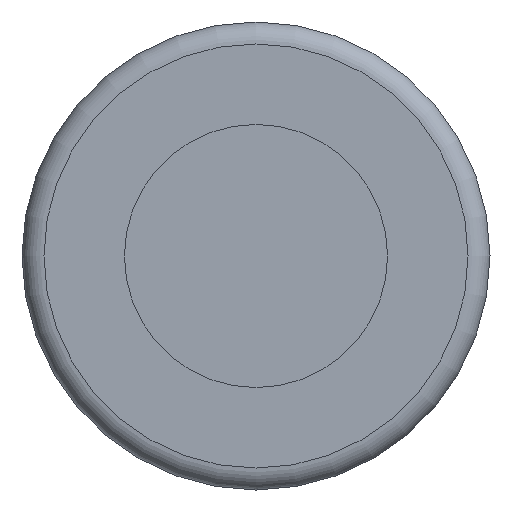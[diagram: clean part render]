
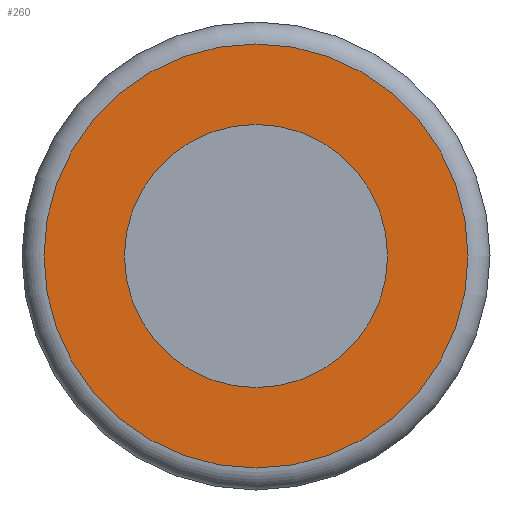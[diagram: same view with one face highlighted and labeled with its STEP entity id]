
A CAD part, left-side view. The second image highlights one B-rep face of the part: STEP entity #260.
In plain terms, the highlighted planar face has unit normal (-1, 0, 0).
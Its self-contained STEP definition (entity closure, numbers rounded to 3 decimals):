
#209=CARTESIAN_POINT('',(130.0,14.5,0.));
#210=VERTEX_POINT('',#209);
#211=CARTESIAN_POINT('',(130.0,0.0,0.0));
#212=DIRECTION('',(1.0,0.0,0.0));
#213=DIRECTION('',(0.0,-1.0,0.0));
#214=AXIS2_PLACEMENT_3D('',#211,#212,#213);
#215=CIRCLE('',#214,14.5);
#216=EDGE_CURVE('',#210,#210,#215,.T.);
#241=CARTESIAN_POINT('',(130.0,0.0,0.0));
#242=DIRECTION('',(-1.0,0.0,0.0));
#243=DIRECTION('',(0.0,0.0,1.0));
#244=AXIS2_PLACEMENT_3D('',#241,#242,#243);
#245=PLANE('',#244);
#246=ORIENTED_EDGE('',*,*,#216,.F.);
#247=EDGE_LOOP('',(#246));
#248=FACE_OUTER_BOUND('',#247,.T.);
#249=CARTESIAN_POINT('',(130.0,9.0,0.));
#250=VERTEX_POINT('',#249);
#251=CARTESIAN_POINT('',(130.0,0.0,0.0));
#252=DIRECTION('',(1.0,0.0,0.0));
#253=DIRECTION('',(0.0,-1.0,0.0));
#254=AXIS2_PLACEMENT_3D('',#251,#252,#253);
#255=CIRCLE('',#254,9.0);
#256=EDGE_CURVE('',#250,#250,#255,.T.);
#257=ORIENTED_EDGE('',*,*,#256,.T.);
#258=EDGE_LOOP('',(#257));
#259=FACE_BOUND('',#258,.T.);
#260=ADVANCED_FACE('',(#248,#259),#245,.T.);
